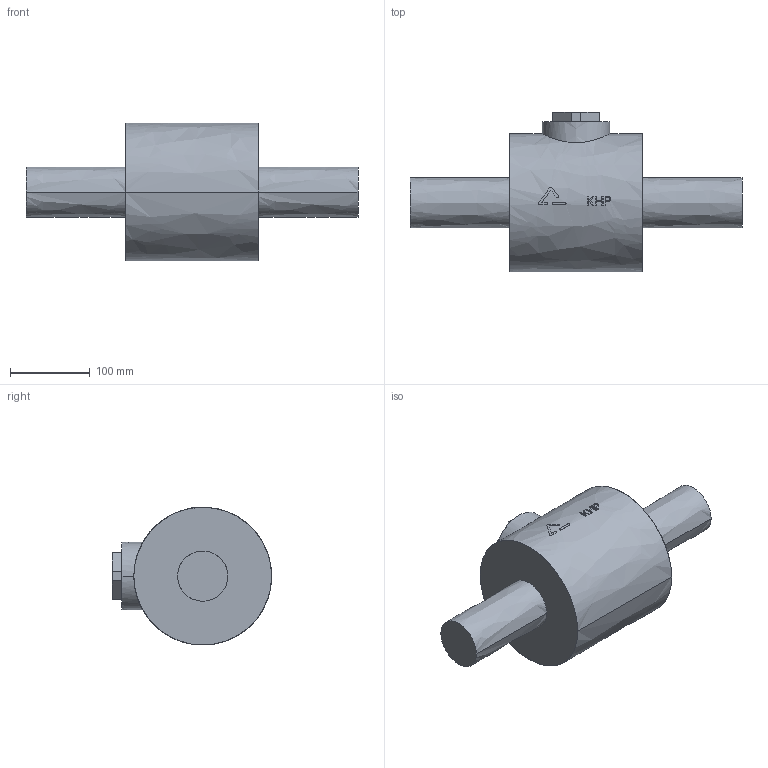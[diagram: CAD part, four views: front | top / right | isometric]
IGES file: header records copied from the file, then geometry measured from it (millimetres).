
Start section:  PTC IGES file: khp_d63.igs
Global section: file name: khp_d63.igs; native system: Pro/ENGINEER by Parametric Technology Corporation; preprocessor: 2006140; author: muellerc; organization: Unknown; date: 20060803.080422; units: millimetre
Bounding box: 417 x 200 x 173.3 mm (x, y, z)
Surface area: 196094.1 mm2 (no closed solid volume)
Topology: 0 solids, 0 shells, 95 faces, 545 edges, 548 vertices
Faces by surface type: bspline 95
